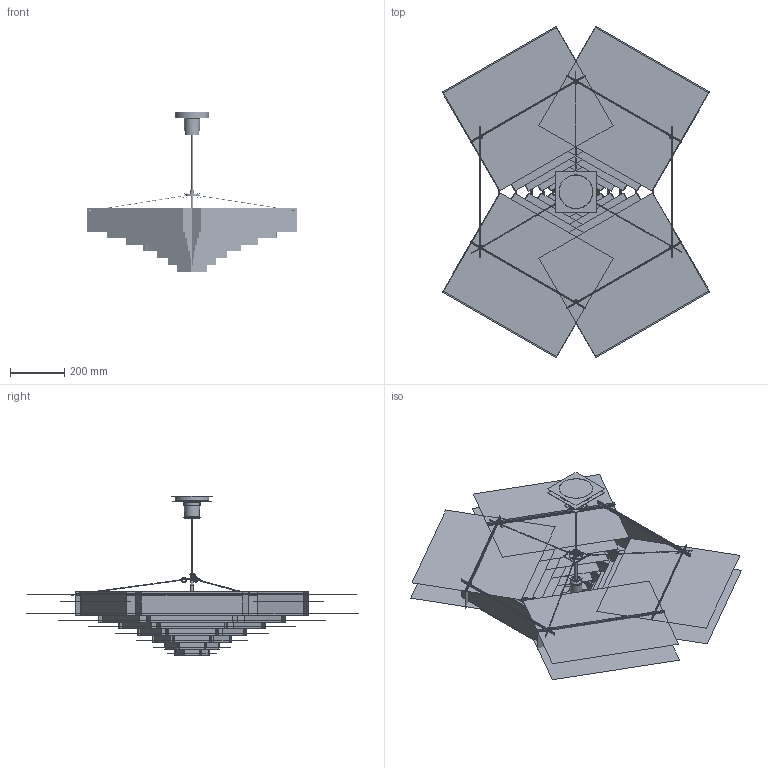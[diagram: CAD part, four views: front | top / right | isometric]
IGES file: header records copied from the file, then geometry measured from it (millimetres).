
Global section: file name: C:\Users\utente\Desktop\3d sito\ESAGONALE\esagonale L.igs; native system: Rhinoceros ( Mar  9 2011 ); preprocessor: Trout Lake IGES 012 Mar  9 2011; date: 170519.163321; units: millimetre
Bounding box: 987.01 x 1223.38 x 587.89 mm (x, y, z)
Surface area: 6431638.8 mm2 (no closed solid volume)
Topology: 0 solids, 0 shells, 946 faces, 3499 edges, 3234 vertices
Faces by surface type: bspline 946
